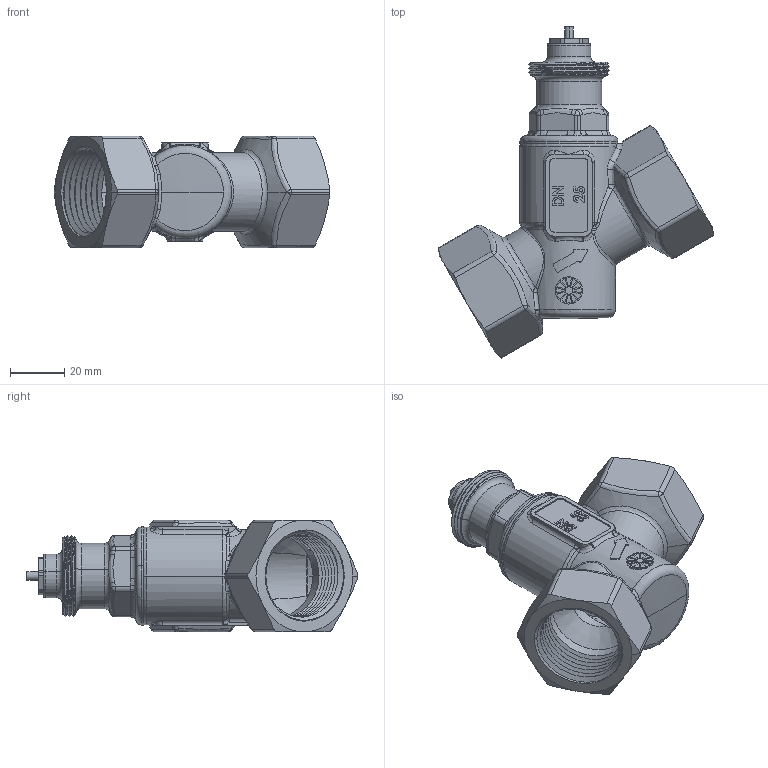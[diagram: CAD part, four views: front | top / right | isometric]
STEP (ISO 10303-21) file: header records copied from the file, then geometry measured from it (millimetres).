
FILE_DESCRIPTION (( 'STEP AP203' ), '1' );
FILE_NAME ('EVS A-House DN25 ISO FF.step', '2024-04-29T08:13:59', ( '' ), ( '' ), 'SwSTEP 2.0', 'SolidWorks 2023', '' );
FILE_SCHEMA (( 'CONFIG_CONTROL_DESIGN' ));
Length unit declared in the file: millimetre
Products named in the file (1): EVS A-House DN25 ISO FF
Bounding box: 101.23 x 121.88 x 41 mm (x, y, z)
Surface area: 31635.1 mm2 (no closed solid volume)
Topology: 0 solids, 3 shells, 606 faces, 1637 edges, 1026 vertices
Faces by surface type: plane 189, cylinder 183, bspline 141, cone 46, torus 27, sphere 20
Entity records: 28840 total; most frequent: CARTESIAN_POINT 14909, ORIENTED_EDGE 3087, DIRECTION 2593, EDGE_CURVE 1623, VERTEX_POINT 1026, AXIS2_PLACEMENT_3D 978, EDGE_LOOP 644, VECTOR 637
